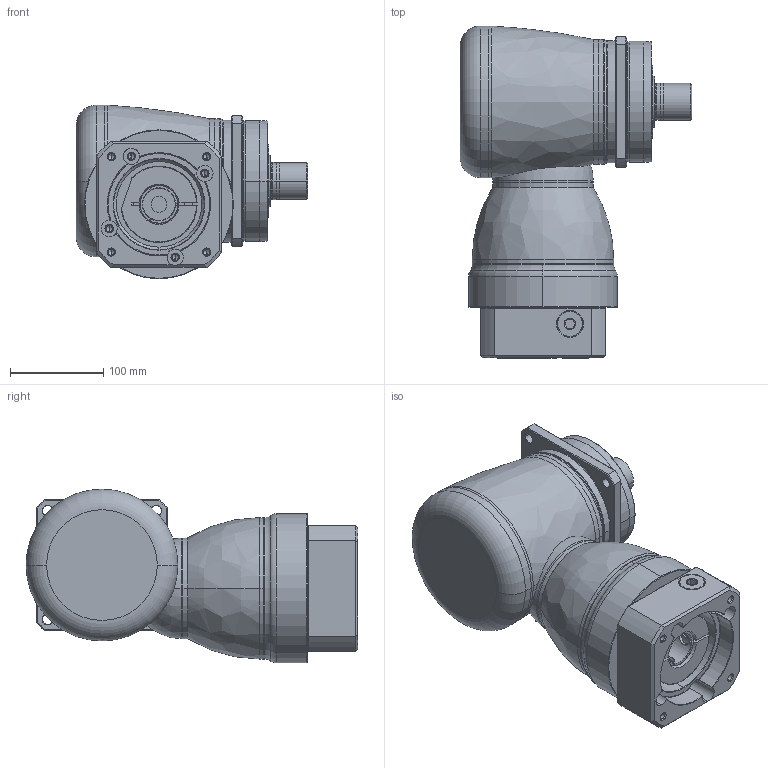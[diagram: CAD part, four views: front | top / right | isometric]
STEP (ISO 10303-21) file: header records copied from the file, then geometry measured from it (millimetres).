
FILE_DESCRIPTION((''),'2;1');
FILE_NAME('KF140_S3_1ST_35-P0409800101_ASM','2016-07-05T',('d01943'),(''),'PRO/ENGINEER BY PARAMETRIC TECHNOLOGY CORPORATION, 2008410','PRO/ENGINEER BY PARAMETRIC TECHNOLOGY CORPORATION, 2008410','');
FILE_SCHEMA(('CONFIG_CONTROL_DESIGN'));
Length unit declared in the file: millimetre
Products named in the file (11): P1008500002; P1804500001; P0915502001; P1315500001; P1007500001; P1318500301; P0409800101; P0503800012; P0912503201; 21711422019; KF140_S3_1ST_35-P0409800101_ASM
Assembly tree (10 placements, depth 2):
  KF140_S3_1ST_35-P0409800101_ASM
    P1008500002
    P1804500001
    P0915502001
    P1315500001
    P1007500001
    P1318500301
    P0409800101
    P0503800012
    P0912503201
    21711422019
Bounding box: 249 x 356.5 x 186.5 mm (x, y, z)
Volume: 6268524.9 mm3; surface area: 533299.9 mm2
Topology: 11 solids, 11 shells, 473 faces, 1077 edges, 639 vertices
Faces by surface type: cylinder 158, cone 134, plane 96, torus 64, bspline 19, sphere 2
Entity records: 18302 total; most frequent: CARTESIAN_POINT 7416, DIRECTION 2404, ORIENTED_EDGE 2114, EDGE_CURVE 1057, AXIS2_PLACEMENT_3D 1018, VERTEX_POINT 639, CIRCLE 543, EDGE_LOOP 538
